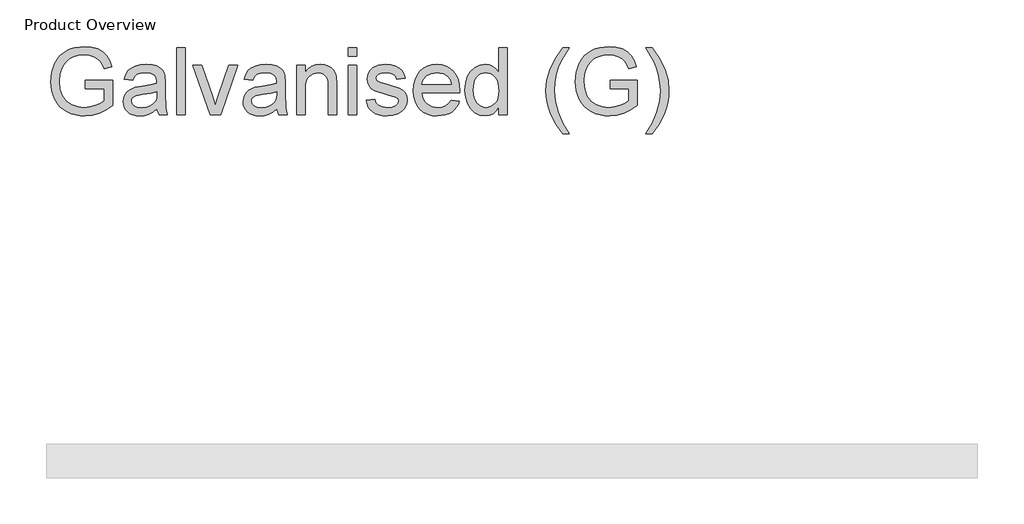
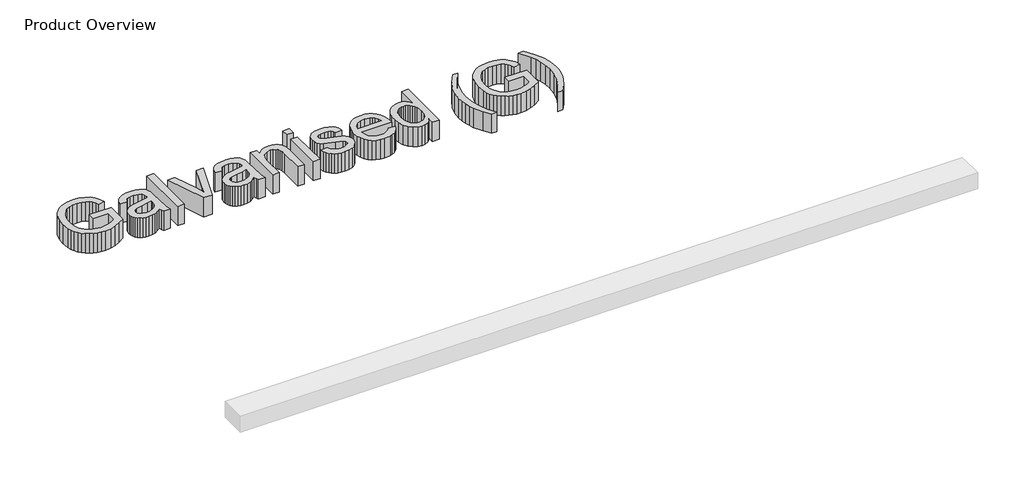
# One storey, part 5 of 11: 1 proxy.
"""IFC4 building model written with IfcOpenShell, lengths in millimetres."""

from ifc_helpers import new_model, si_unit, origin, origin_with_axes, place, context, project, spatial, polyline, outline, extrude, element, save

model = new_model("IFC4")

# Units and contexts
model_context = context("Model", 3, world=origin())
ifc_project = project(units=[si_unit("LENGTHUNIT", "METRE", prefix="MILLI")], contexts=[model_context])

# Site, building, storey
site = spatial("IfcSite", under=ifc_project)
building = spatial("IfcBuilding", under=site)
storey = spatial("IfcBuildingStorey", under=building, Name="Product Overview", Elevation=0.0)

# Proxy
placement = place(None, origin())
element("IfcBuildingElementProxy", 1, Name="400.0", ObjectType="400.0", at=placement, inside=storey, context=model_context, shape_type="SweptSolid", body=[
    extrude(outline(polyline([(-15810.1854011, -12540.8059128), (-15810.1854011, -12491.8362158), (-15651.0338859, -12491.8362158), (-15651.0338859, -12638.267087), (-15689.7099039, -12665.166945), (-15729.6053822, -12684.4631098), (-15770.6246767, -12696.0838484), (-15812.6721435, -12699.9574279), (-15840.8004283, -12698.4181583), (-15867.6076312, -12693.8003493), (-15893.0937522, -12686.1040011), (-15917.2587912, -12675.3291136), (-15939.3226525, -12661.6370859), (-15958.5052401, -12645.1893172), (-15974.806554, -12625.9858074), (-15988.2265943, -12604.0265567), (-15998.7085723, -12580.0139502), (-16006.1956994, -12554.650373), (-16012.1854011, -12499.8703067), (-16006.2196104, -12444.6957092), (-15988.3222382, -12393.3707802), (-15975.0845192, -12370.2578245), (-15959.2345251, -12350.319052), (-15940.772256, -12333.5544627), (-15919.6977117, -12319.9640567), (-15896.4681899, -12309.4611566), (-15871.5409882, -12301.9590851), (-15816.593545, -12295.9574279), (-15776.2557136, -12299.4364762), (-15739.9827496, -12309.8736211), (-15709.4364664, -12326.5156666), (-15686.2786776, -12348.6094166), (-15669.146457, -12377.21891), (-15656.6768784, -12413.4081855), (-15701.8208178, -12426.1288295), (-15711.8992979, -12400.3169213), (-15724.1536776, -12380.8414242), (-15740.3653253, -12366.1600795), (-15762.3156094, -12354.7306287), (-15788.4861823, -12347.3780009), (-15817.3586965, -12344.9271249), (-15851.1568736, -12347.5692887), (-15880.0532988, -12355.4957802), (-15903.9403727, -12367.7142935), (-15922.7104958, -12383.2325226), (-15937.1168642, -12401.2494497), (-15947.9126738, -12420.9640567), (-15959.3899465, -12457.9304393), (-15963.2157041, -12497.861784), (-15958.6128395, -12544.6914478), (-15944.8042458, -12583.2239999), (-15922.2083651, -12613.1844639), (-15891.2436397, -12634.2978636), (-15855.0065422, -12646.8152641), (-15816.593545, -12650.987731), (-15782.675813, -12647.8434365), (-15749.5949655, -12638.4105529), (-15720.8659172, -12625.4149327), (-15700.0035829, -12611.5824279), (-15700.0035829, -12540.8059128), (-15810.1854011, -12540.8059128)])), origin_with_axes(), (0.0, 0.0, 1.0), 150.0),
    extrude(outline(polyline([(-15393.9429769, -12657.1089431), (-15417.3398755, -12677.1702594), (-15441.4301928, -12690.2973901), (-15466.7638812, -12697.5424185), (-15493.8908935, -12699.9574279), (-15515.6947228, -12698.5048356), (-15534.8145441, -12694.1470586), (-15551.2503573, -12686.884097), (-15565.0021625, -12676.7159507), (-15575.8607385, -12664.2882163), (-15583.6168642, -12650.2464904), (-15588.2705396, -12634.5907731), (-15589.8217647, -12617.3210643), (-15587.4784882, -12597.0206382), (-15580.4486587, -12578.5852689), (-15569.605027, -12562.8040189), (-15555.8203443, -12550.4659507), (-15521.531992, -12534.3977689), (-15479.1617269, -12527.0331855), (-15429.0921246, -12519.2860264), (-15394.2299087, -12510.1998522), (-15393.9429769, -12499.2964431), (-15397.3144257, -12477.4418029), (-15407.4287723, -12463.143034), (-15430.048564, -12452.5265567), (-15461.563242, -12448.987731), (-15490.7346435, -12451.342963), (-15511.1068026, -12458.408659), (-15524.9990848, -12471.4760122), (-15534.7308556, -12491.8362158), (-15583.7005526, -12485.7150037), (-15575.2001975, -12458.9347007), (-15562.51542, -12437.893034), (-15544.4626265, -12421.8009412), (-15519.8582231, -12409.8693598), (-15489.7662486, -12402.4808654), (-15455.250742, -12400.018034), (-15422.1459835, -12402.1939336), (-15395.9036776, -12408.7216325), (-15376.1173376, -12418.5370918), (-15362.3804769, -12430.5762726), (-15353.2703916, -12445.4608607), (-15347.3643784, -12463.8125416), (-15344.9732799, -12506.6610264), (-15344.9732799, -12567.5862158), (-15342.4865375, -12652.6614999), (-15332.7308556, -12693.8362158), (-15381.7005526, -12693.8362158), (-15389.5433556, -12676.8115946), (-15393.9429769, -12657.1089431)]), holes=[polyline([(-15393.9429769, -12559.1695492), (-15426.844492, -12567.323195), (-15472.9448708, -12574.1856476), (-15515.0760261, -12582.1240946), (-15526.0392126, -12587.5518882), (-15534.156992, -12595.0360264), (-15539.1782988, -12604.0026457), (-15540.8520678, -12613.8778825), (-15537.2056426, -12628.4396723), (-15526.266367, -12640.3712537), (-15508.2733509, -12648.3336117), (-15483.4657041, -12650.987731), (-15457.1636208, -12648.0586353), (-15433.9221435, -12639.2713484), (-15415.0802875, -12626.3235501), (-15401.9770678, -12610.9129204), (-15396.1666984, -12595.0360264), (-15394.2299087, -12573.0379204), (-15393.9429769, -12559.1695492)])]), origin_with_axes(), (0.0, 0.0, 1.0), 150.0),
    extrude(outline(polyline([(-15277.6399465, -12693.8362158), (-15277.6399465, -12302.0786401), (-15228.6702496, -12302.0786401), (-15228.6702496, -12693.8362158), (-15277.6399465, -12693.8362158)])), origin_with_axes(), (0.0, 0.0, 1.0), 150.0),
    extrude(outline(polyline([(-15084.6304769, -12693.8362158), (-15185.8217647, -12406.1392461), (-15133.9827496, -12406.1392461), (-15072.6749844, -12578.4896249), (-15054.2157041, -12636.4498522), (-15036.1389996, -12581.7415189), (-14974.4486587, -12406.1392461), (-14922.6096435, -12406.1392461), (-15022.5575602, -12693.8362158), (-15084.6304769, -12693.8362158)])), origin_with_axes(), (0.0, 0.0, 1.0), 150.0),
    extrude(outline(polyline([(-14696.124795, -12657.1089431), (-14719.5216937, -12677.1702594), (-14743.6120109, -12690.2973901), (-14768.9456994, -12697.5424185), (-14796.0727117, -12699.9574279), (-14817.876541, -12698.5048356), (-14836.9963623, -12694.1470586), (-14853.4321755, -12686.884097), (-14867.1839806, -12676.7159507), (-14878.0425566, -12664.2882163), (-14885.7986823, -12650.2464904), (-14890.4523578, -12634.5907731), (-14892.0035829, -12617.3210643), (-14889.6603064, -12597.0206382), (-14882.6304769, -12578.5852689), (-14871.7868452, -12562.8040189), (-14858.0021625, -12550.4659507), (-14823.7138102, -12534.3977689), (-14781.343545, -12527.0331855), (-14731.2739428, -12519.2860264), (-14696.4117269, -12510.1998522), (-14696.124795, -12499.2964431), (-14699.4962439, -12477.4418029), (-14709.6105905, -12463.143034), (-14732.2303822, -12452.5265567), (-14763.7450602, -12448.987731), (-14792.9164617, -12451.342963), (-14813.2886208, -12458.408659), (-14827.180903, -12471.4760122), (-14836.9126738, -12491.8362158), (-14885.8823708, -12485.7150037), (-14877.3820157, -12458.9347007), (-14864.6972382, -12437.893034), (-14846.6444447, -12421.8009412), (-14822.0400412, -12409.8693598), (-14791.9480668, -12402.4808654), (-14757.4325602, -12400.018034), (-14724.3278017, -12402.1939336), (-14698.0854958, -12408.7216325), (-14678.2991558, -12418.5370918), (-14664.562295, -12430.5762726), (-14655.4522098, -12445.4608607), (-14649.5461965, -12463.8125416), (-14647.1550981, -12506.6610264), (-14647.1550981, -12567.5862158), (-14644.6683556, -12652.6614999), (-14634.9126738, -12693.8362158), (-14683.8823708, -12693.8362158), (-14691.7251738, -12676.8115946), (-14696.124795, -12657.1089431)]), holes=[polyline([(-14696.124795, -12559.1695492), (-14729.0263102, -12567.323195), (-14775.126689, -12574.1856476), (-14817.2578443, -12582.1240946), (-14828.2210308, -12587.5518882), (-14836.3388102, -12595.0360264), (-14841.360117, -12604.0026457), (-14843.0338859, -12613.8778825), (-14839.3874608, -12628.4396723), (-14828.4481852, -12640.3712537), (-14810.4551691, -12648.3336117), (-14785.6475223, -12650.987731), (-14759.345439, -12648.0586353), (-14736.1039617, -12639.2713484), (-14717.2621056, -12626.3235501), (-14704.1588859, -12610.9129204), (-14698.3485166, -12595.0360264), (-14696.4117269, -12573.0379204), (-14696.124795, -12559.1695492)])]), origin_with_axes(), (0.0, 0.0, 1.0), 150.0),
    extrude(outline(polyline([(-14579.8217647, -12693.8362158), (-14579.8217647, -12406.1392461), (-14530.8520678, -12406.1392461), (-14530.8520678, -12446.3097007), (-14513.839402, -12426.0570965), (-14493.4074655, -12411.5909507), (-14469.5562581, -12402.9112632), (-14442.2857799, -12400.018034), (-14418.1476407, -12402.349355), (-14396.0419352, -12409.3433181), (-14377.6065659, -12420.1271723), (-14364.4794352, -12433.8281666), (-14355.5725933, -12450.4104346), (-14349.7980905, -12469.8381098), (-14347.2157041, -12517.1818598), (-14347.2157041, -12693.8362158), (-14396.1854011, -12693.8362158), (-14396.1854011, -12523.7812916), (-14397.5961492, -12498.4595586), (-14401.8283935, -12480.454587), (-14409.6353301, -12467.5546107), (-14421.7701549, -12457.5478636), (-14437.3242505, -12451.1277641), (-14455.3889996, -12448.987731), (-14484.0702259, -12453.7938389), (-14508.5192079, -12468.2121628), (-14518.2898341, -12479.9823451), (-14525.2688528, -12496.0684601), (-14529.456264, -12516.470508), (-14530.8520678, -12541.1884886), (-14530.8520678, -12693.8362158), (-14579.8217647, -12693.8362158)])), origin_with_axes(), (0.0, 0.0, 1.0), 150.0),
    extrude(outline(polyline([(-14279.8823708, -12351.048337), (-14279.8823708, -12302.0786401), (-14230.9126738, -12302.0786401), (-14230.9126738, -12351.048337), (-14279.8823708, -12351.048337)])), origin_with_axes(), (0.0, 0.0, 1.0), 150.0),
    extrude(outline(polyline([(-14279.8823708, -12693.8362158), (-14279.8823708, -12406.1392461), (-14230.9126738, -12406.1392461), (-14230.9126738, -12693.8362158), (-14279.8823708, -12693.8362158)])), origin_with_axes(), (0.0, 0.0, 1.0), 150.0),
    extrude(outline(polyline([(-14175.8217647, -12608.1392461), (-14126.8520678, -12602.018034), (-14119.1288197, -12622.9640567), (-14104.1844541, -12638.362731), (-14081.9233272, -12647.831481), (-14052.249795, -12650.987731), (-14022.9349276, -12648.0945018), (-14002.3236587, -12639.4148143), (-13990.1290564, -12626.8376363), (-13986.064189, -12612.2519355), (-13990.1529674, -12599.7704014), (-14002.4193026, -12590.2538295), (-14052.8236587, -12576.2898143), (-14126.5651359, -12552.3310075), (-14145.2276596, -12540.2918266), (-14158.7493215, -12524.3551552), (-14166.9627448, -12505.5372101), (-14169.7005526, -12484.8542082), (-14167.500742, -12465.8808418), (-14160.9013102, -12448.3660454), (-14150.5000318, -12433.0032376), (-14136.8946814, -12420.485837), (-14105.7625791, -12405.9957802), (-14063.6314238, -12400.018034), (-14031.758081, -12402.421088), (-14004.0452496, -12409.6302499), (-13981.7602117, -12420.9401457), (-13966.1702496, -12435.6454014), (-13955.8407041, -12454.8339668), (-13949.3369162, -12479.5937916), (-13998.3066132, -12485.7150037), (-14004.4876028, -12470.304374), (-14016.7180715, -12458.6955908), (-14035.1175744, -12451.4146959), (-14059.8056662, -12448.987731), (-14087.9249844, -12451.3070965), (-14106.6711965, -12458.2651931), (-14117.2159409, -12468.3078067), (-14120.7308556, -12479.8807234), (-14114.8965753, -12494.1316704), (-14096.6285829, -12504.9394355), (-14054.4496056, -12515.3646249), (-13982.5731852, -12538.4148143), (-13963.5878632, -12549.4377783), (-13949.1934503, -12564.5256098), (-13940.1192316, -12583.7261306), (-13937.094492, -12607.0871628), (-13940.6452733, -12631.2372575), (-13951.297617, -12653.9526931), (-13968.6450365, -12673.4521012), (-13992.281045, -12687.9541136), (-14020.8307609, -12696.9565993), (-14052.9193026, -12699.9574279), (-14079.2751857, -12698.5108134), (-14102.2954863, -12694.1709696), (-14121.9802046, -12686.9378967), (-14138.3293405, -12676.8115946), (-14151.6836255, -12663.8398853), (-14162.3837912, -12648.0705908), (-14170.4298376, -12629.5037111), (-14175.8217647, -12608.1392461)])), origin_with_axes(), (0.0, 0.0, 1.0), 150.0),
    extrude(outline(polyline([(-13680.5774465, -12608.1392461), (-13632.564189, -12614.2604582), (-13639.9257834, -12633.4908678), (-13649.8637865, -12650.4377783), (-13662.3781982, -12665.1011898), (-13677.4690185, -12677.4811022), (-13694.980826, -12687.3144947), (-13714.7581994, -12694.3383465), (-13761.1096435, -12699.9574279), (-13791.4945275, -12697.5334519), (-13818.5677401, -12690.2615236), (-13842.3292813, -12678.1416431), (-13862.7791511, -12661.1738105), (-13879.2239309, -12639.8302677), (-13890.9702022, -12614.5832565), (-13898.017965, -12585.4327771), (-13900.3672193, -12552.3788295), (-13897.994054, -12518.2040544), (-13890.8745583, -12488.0821912), (-13879.0087321, -12462.01324), (-13862.3965753, -12439.9972007), (-13842.0005053, -12422.5063153), (-13818.782939, -12410.0128257), (-13792.7438765, -12402.5167319), (-13763.8833178, -12400.018034), (-13735.9522986, -12402.5107542), (-13710.693332, -12409.9889147), (-13688.1064179, -12422.4525155), (-13668.1915564, -12439.9015567), (-13651.9350756, -12461.8697741), (-13640.3233036, -12487.8909033), (-13633.3562403, -12517.9649445), (-13631.0338859, -12552.0918976), (-13631.3208178, -12565.2907613), (-13851.3975223, -12565.2907613), (-13848.5610817, -12584.8320136), (-13842.9210782, -12601.9463011), (-13834.4775117, -12616.6336235), (-13823.2303822, -12628.893981), (-13794.8121767, -12645.4642935), (-13760.1532041, -12650.987731), (-13734.0902306, -12648.4292556), (-13712.1399465, -12640.7538295), (-13694.3023519, -12627.4832329), (-13680.5774465, -12608.1392461)]), holes=[polyline([(-13851.3975223, -12516.3210643), (-13680.0035829, -12516.3210643), (-13686.6269257, -12490.4493787), (-13699.6105905, -12471.9422764), (-13712.9648755, -12461.8996628), (-13728.1603064, -12454.7263673), (-13764.0746056, -12448.987731), (-13797.0837202, -12453.5666846), (-13824.3781094, -12467.3035454), (-13843.3514759, -12488.7158323), (-13851.3975223, -12516.3210643)])]), origin_with_axes(), (0.0, 0.0, 1.0), 150.0),
    extrude(outline(polyline([(-13404.5490375, -12693.8362158), (-13404.5490375, -12647.6401931), (-13419.2004934, -12670.5289833), (-13436.9484219, -12686.8781192), (-13457.792823, -12696.6876008), (-13481.7336965, -12699.9574279), (-13513.3918405, -12695.2230529), (-13542.3719541, -12681.0199279), (-13566.9046246, -12658.3403588), (-13585.220439, -12628.1766514), (-13596.6259787, -12591.748266), (-13600.4278253, -12550.2746628), (-13596.9248661, -12509.3151457), (-13586.4159882, -12472.3248522), (-13568.9131473, -12441.4079488), (-13544.4282988, -12418.6686022), (-13514.8145441, -12404.6806761), (-13481.9249844, -12400.018034), (-13457.9661776, -12403.3536164), (-13436.781045, -12413.3603636), (-13418.8238954, -12428.6992603), (-13404.5490375, -12448.0312916), (-13404.5490375, -12302.0786401), (-13355.5793405, -12302.0786401), (-13355.5793405, -12693.8362158), (-13404.5490375, -12693.8362158)]), holes=[polyline([(-13551.4581284, -12550.0833749), (-13545.9346909, -12594.3784743), (-13539.030394, -12611.7288827), (-13529.3643784, -12625.8811969), (-13505.2860166, -12644.7110975), (-13491.7583769, -12649.4185726), (-13477.2384314, -12650.987731), (-13449.2028017, -12644.9980293), (-13425.73417, -12627.0289242), (-13416.4656745, -12613.4684069), (-13409.8453206, -12596.7456618), (-13404.5490375, -12553.8134886), (-13409.9409645, -12506.8762253), (-13416.6808734, -12488.8054985), (-13426.1167458, -12474.3333749), (-13437.5252744, -12463.2446557), (-13450.183152, -12455.324142), (-13464.0903786, -12450.5718337), (-13479.2469541, -12448.987731), (-13494.0538315, -12450.5090674), (-13507.5814712, -12455.0730766), (-13519.8298732, -12462.6797587), (-13530.7990375, -12473.3291136), (-13539.8373897, -12487.2542734), (-13546.2933556, -12504.6883702), (-13551.4581284, -12550.0833749)])]), origin_with_axes(), (0.0, 0.0, 1.0), 150.0),
    extrude(outline(polyline([(-13031.1550981, -12804.018034), (-13069.101831, -12750.7682707), (-13100.688242, -12689.1496628), (-13113.1159764, -12655.9492603), (-13121.9929295, -12622.1510832), (-13127.3191014, -12587.7551315), (-13129.094492, -12552.7614052), (-13123.7862534, -12491.9079488), (-13107.8615375, -12433.6847007), (-13076.2512155, -12367.7382045), (-13031.1550981, -12302.0786401), (-12994.4278253, -12302.0786401), (-13040.2412723, -12379.6458749), (-13055.8790564, -12416.4687916), (-13067.7867269, -12454.8220113), (-13077.040278, -12503.8156192), (-13080.124795, -12553.048337), (-13074.7687344, -12615.8266278), (-13058.7005526, -12678.5810075), (-13031.9202496, -12741.3114762), (-12994.4278253, -12804.018034), (-13031.1550981, -12804.018034)])), origin_with_axes(), (0.0, 0.0, 1.0), 150.0),
    extrude(outline(polyline([(-12755.7005526, -12540.8059128), (-12755.7005526, -12491.8362158), (-12596.5490375, -12491.8362158), (-12596.5490375, -12638.267087), (-12635.2250555, -12665.166945), (-12675.1205337, -12684.4631098), (-12716.1398282, -12696.0838484), (-12758.187295, -12699.9574279), (-12786.3155798, -12698.4181583), (-12813.1227827, -12693.8003493), (-12838.6089037, -12686.1040011), (-12862.7739428, -12675.3291136), (-12884.837804, -12661.6370859), (-12904.0203916, -12645.1893172), (-12920.3217055, -12625.9858074), (-12933.7417458, -12604.0265567), (-12944.2237238, -12580.0139502), (-12951.7108509, -12554.650373), (-12957.7005526, -12499.8703067), (-12951.7347619, -12444.6957092), (-12933.8373897, -12393.3707802), (-12920.5996707, -12370.2578245), (-12904.7496767, -12350.319052), (-12886.2874075, -12333.5544627), (-12865.2128632, -12319.9640567), (-12841.9833414, -12309.4611566), (-12817.0561397, -12301.9590851), (-12762.1086965, -12295.9574279), (-12721.7708651, -12299.4364762), (-12685.4979011, -12309.8736211), (-12654.951618, -12326.5156666), (-12631.7938291, -12348.6094166), (-12614.6616085, -12377.21891), (-12602.1920299, -12413.4081855), (-12647.3359693, -12426.1288295), (-12657.4144494, -12400.3169213), (-12669.6688291, -12380.8414242), (-12685.8804769, -12366.1600795), (-12707.8307609, -12354.7306287), (-12734.0013339, -12347.3780009), (-12762.8738481, -12344.9271249), (-12796.6720251, -12347.5692887), (-12825.5684503, -12355.4957802), (-12849.4555242, -12367.7142935), (-12868.2256473, -12383.2325226), (-12882.6320157, -12401.2494497), (-12893.4278253, -12420.9640567), (-12904.9050981, -12457.9304393), (-12908.7308556, -12497.861784), (-12904.1279911, -12544.6914478), (-12890.3193973, -12583.2239999), (-12867.7235166, -12613.1844639), (-12836.7587912, -12634.2978636), (-12800.5216937, -12646.8152641), (-12762.1086965, -12650.987731), (-12728.1909645, -12647.8434365), (-12695.110117, -12638.4105529), (-12666.3810687, -12625.4149327), (-12645.5187344, -12611.5824279), (-12645.5187344, -12540.8059128), (-12755.7005526, -12540.8059128)])), origin_with_axes(), (0.0, 0.0, 1.0), 150.0),
    extrude(outline(polyline([(-12510.8520678, -12804.018034), (-12547.5793405, -12804.018034), (-12510.0869162, -12741.3114762), (-12483.3066132, -12678.5810075), (-12467.2384314, -12615.8266278), (-12461.8823708, -12553.048337), (-12464.9668878, -12504.174284), (-12474.220439, -12455.6828067), (-12485.9129106, -12417.2578541), (-12501.4789617, -12380.4110264), (-12547.5793405, -12302.0786401), (-12510.8520678, -12302.0786401), (-12465.7559503, -12367.7382045), (-12434.1456284, -12433.6847007), (-12418.2209125, -12491.9079488), (-12412.9126738, -12552.7614052), (-12414.6970311, -12587.7551315), (-12420.0501028, -12622.1510832), (-12428.971889, -12655.9492603), (-12441.4623897, -12689.1496628), (-12473.0846672, -12750.7682707), (-12510.8520678, -12804.018034)])), origin_with_axes(), (0.0, 0.0, 1.0), 150.0),
])

save(model, "model.ifc")
